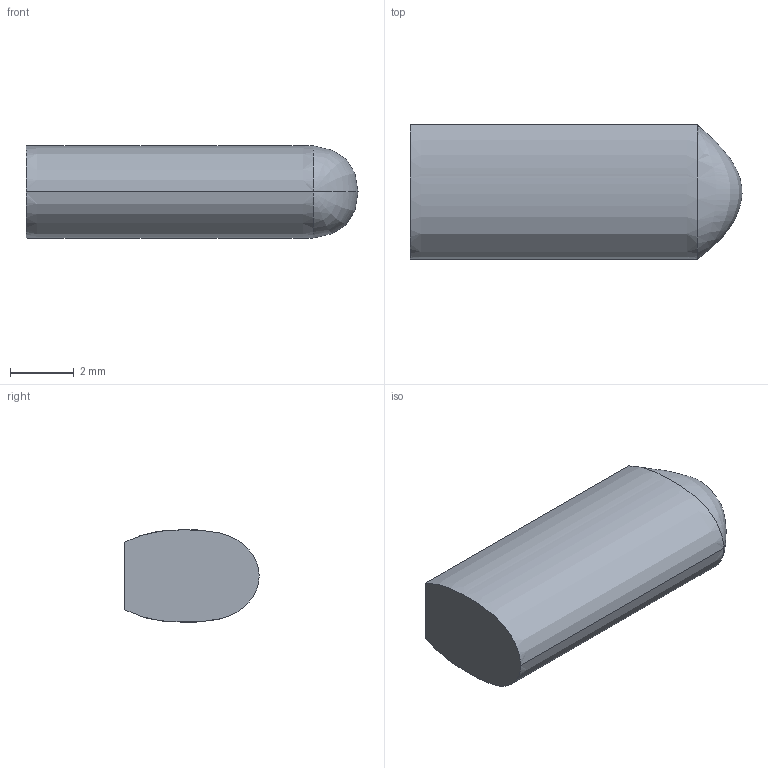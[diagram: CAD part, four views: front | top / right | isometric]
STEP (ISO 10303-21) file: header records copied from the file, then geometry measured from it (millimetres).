
FILE_DESCRIPTION((''),'1');
FILE_NAME('ELEK-ST14-12E','2001-03-29T',('rgoetz'),(''),'PRO/ENGINEER BY PARAMETRIC TECHNOLOGY CORPORATION, 2000350','PRO/ENGINEER BY PARAMETRIC TECHNOLOGY CORPORATION, 2000350','');
FILE_SCHEMA(('CONFIG_CONTROL_DESIGN'));
Length unit declared in the file: millimetre
Products named in the file (1): ELEK-ST14-12E
Bounding box: 10.4 x 4.2 x 2.9 mm (x, y, z)
Volume: 103.4 mm3; surface area: 136.4 mm2
Topology: 1 solids, 1 shells, 6 faces, 13 edges, 7 vertices
Faces by surface type: plane 2, extrusion 2, bspline 2
Entity records: 765 total; most frequent: CARTESIAN_POINT 624, ORIENTED_EDGE 22, EDGE_CURVE 11, DIRECTION 10, B_SPLINE_CURVE_WITH_KNOTS 9, VERTEX_POINT 7, VECTOR 6, EDGE_LOOP 6
